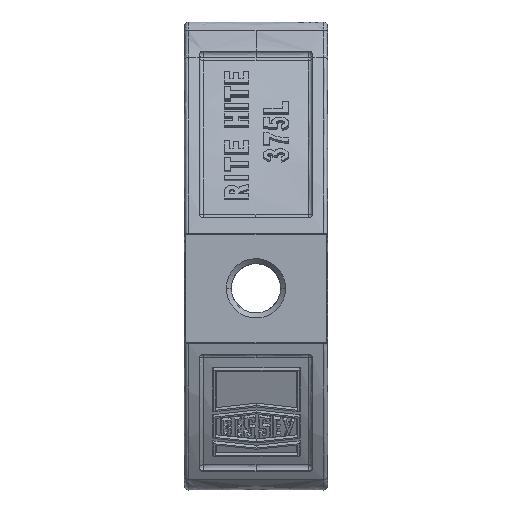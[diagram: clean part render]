
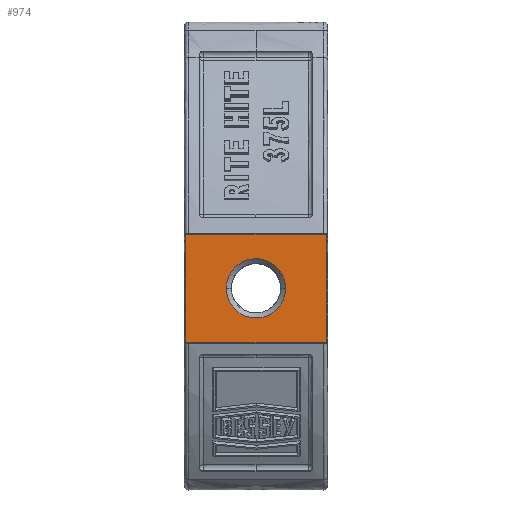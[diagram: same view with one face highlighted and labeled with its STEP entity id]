
A CAD part, left-side view. The second image highlights one B-rep face of the part: STEP entity #974.
In plain terms, the highlighted free-form (B-spline) face has degree [1, 1] with [2, 2] control points.
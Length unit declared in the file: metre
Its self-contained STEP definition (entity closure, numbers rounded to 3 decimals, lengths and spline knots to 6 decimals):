
#974 = ADVANCED_FACE( '', ( #2237, #2238 ), #2239, .F. );
#2237 = FACE_BOUND( '', #6171, .T. );
#2238 = FACE_OUTER_BOUND( '', #6172, .T. );
#2239 = B_SPLINE_SURFACE_WITH_KNOTS( '', 1, 1, ( ( #6173, #6174 ), ( #6175, #6176 ) ), .UNSPECIFIED., .F., .F., .F., ( 2, 2 ), ( 2, 2 ), ( 0., 1. ), ( 0., 1. ), .UNSPECIFIED. );
#6171 = EDGE_LOOP( '', ( #11976, #11977 ) );
#6172 = EDGE_LOOP( '', ( #11978, #11979, #11980, #11981 ) );
#6173 = CARTESIAN_POINT( '', ( 0., -0.01425, 0.011 ) );
#6174 = CARTESIAN_POINT( '', ( 0., 0.01425, 0.011 ) );
#6175 = CARTESIAN_POINT( '', ( 0., -0.01425, -0.011 ) );
#6176 = CARTESIAN_POINT( '', ( 0., 0.01425, -0.011 ) );
#11976 = ORIENTED_EDGE( '', *, *, #14956, .F. );
#11977 = ORIENTED_EDGE( '', *, *, #15204, .F. );
#11978 = ORIENTED_EDGE( '', *, *, #15205, .F. );
#11979 = ORIENTED_EDGE( '', *, *, #15206, .F. );
#11980 = ORIENTED_EDGE( '', *, *, #13903, .F. );
#11981 = ORIENTED_EDGE( '', *, *, #15207, .F. );
#13903 = EDGE_CURVE( '', #17101, #17100, #17103, .T. );
#14956 = EDGE_CURVE( '', #19026, #19022, #19028, .T. );
#15204 = EDGE_CURVE( '', #19022, #19026, #19488, .T. );
#15205 = EDGE_CURVE( '', #19489, #19490, #19491, .F. );
#15206 = EDGE_CURVE( '', #17100, #19489, #19492, .F. );
#15207 = EDGE_CURVE( '', #19490, #17101, #19493, .F. );
#17100 = VERTEX_POINT( '', #23010 );
#17101 = VERTEX_POINT( '', #23011 );
#17103 = B_SPLINE_CURVE_WITH_KNOTS( '', 1, ( #23085, #23086 ), .UNSPECIFIED., .F., .F., ( 2, 2 ), ( 0., 1. ), .UNSPECIFIED. );
#19022 = VERTEX_POINT( '', #30455 );
#19026 = VERTEX_POINT( '', #30471 );
#19028 = ( BOUNDED_CURVE(  )B_SPLINE_CURVE( 2, ( #30476, #30477, #30478, #30479, #30480 ), .UNSPECIFIED., .F., .F. )B_SPLINE_CURVE_WITH_KNOTS( ( 3, 2, 3 ), ( 0., 0.5, 1. ), .UNSPECIFIED. )CURVE(  )GEOMETRIC_REPRESENTATION_ITEM(  )RATIONAL_B_SPLINE_CURVE( ( 1., 0.707, 1., 0.707, 1. ) )REPRESENTATION_ITEM( '' ) );
#19488 = ( BOUNDED_CURVE(  )B_SPLINE_CURVE( 2, ( #32338, #32339, #32340, #32341, #32342 ), .UNSPECIFIED., .F., .F. )B_SPLINE_CURVE_WITH_KNOTS( ( 3, 2, 3 ), ( 0., 0.5, 1. ), .UNSPECIFIED. )CURVE(  )GEOMETRIC_REPRESENTATION_ITEM(  )RATIONAL_B_SPLINE_CURVE( ( 1., 0.707, 1., 0.707, 1. ) )REPRESENTATION_ITEM( '' ) );
#19489 = VERTEX_POINT( '', #32348 );
#19490 = VERTEX_POINT( '', #32349 );
#19491 = B_SPLINE_CURVE_WITH_KNOTS( '', 1, ( #32350, #32351 ), .UNSPECIFIED., .F., .F., ( 2, 2 ), ( 0., 1. ), .UNSPECIFIED. );
#19492 = B_SPLINE_CURVE_WITH_KNOTS( '', 1, ( #32352, #32353 ), .UNSPECIFIED., .F., .F., ( 2, 2 ), ( 0., 1. ), .UNSPECIFIED. );
#19493 = B_SPLINE_CURVE_WITH_KNOTS( '', 1, ( #32354, #32355 ), .UNSPECIFIED., .F., .F., ( 2, 2 ), ( 0., 1. ), .UNSPECIFIED. );
#23010 = CARTESIAN_POINT( '', ( 0., -0.01425, -0.011 ) );
#23011 = CARTESIAN_POINT( '', ( 0., -0.01425, 0.011 ) );
#23085 = CARTESIAN_POINT( '', ( 0., -0.01425, 0.011 ) );
#23086 = CARTESIAN_POINT( '', ( 0., -0.01425, -0.011 ) );
#30455 = CARTESIAN_POINT( '', ( 0., -0.006, 0. ) );
#30471 = CARTESIAN_POINT( '', ( 0., 0.006, 0. ) );
#30476 = CARTESIAN_POINT( '', ( 0., 0.006, 0. ) );
#30477 = CARTESIAN_POINT( '', ( 0., 0.006, -0.006 ) );
#30478 = CARTESIAN_POINT( '', ( 0., 0., -0.006 ) );
#30479 = CARTESIAN_POINT( '', ( 0., -0.006, -0.006 ) );
#30480 = CARTESIAN_POINT( '', ( 0., -0.006, 0. ) );
#32338 = CARTESIAN_POINT( '', ( 0., -0.006, 0. ) );
#32339 = CARTESIAN_POINT( '', ( 0., -0.006, 0.006 ) );
#32340 = CARTESIAN_POINT( '', ( 0., 0., 0.006 ) );
#32341 = CARTESIAN_POINT( '', ( 0., 0.006, 0.006 ) );
#32342 = CARTESIAN_POINT( '', ( 0., 0.006, 0. ) );
#32348 = CARTESIAN_POINT( '', ( 0., 0.01425, -0.011 ) );
#32349 = CARTESIAN_POINT( '', ( 0., 0.01425, 0.011 ) );
#32350 = CARTESIAN_POINT( '', ( 0., 0.01425, 0.011 ) );
#32351 = CARTESIAN_POINT( '', ( 0., 0.01425, -0.011 ) );
#32352 = CARTESIAN_POINT( '', ( 0., 0.01425, -0.011 ) );
#32353 = CARTESIAN_POINT( '', ( 0., -0.01425, -0.011 ) );
#32354 = CARTESIAN_POINT( '', ( 0., -0.01425, 0.011 ) );
#32355 = CARTESIAN_POINT( '', ( 0., 0.01425, 0.011 ) );
